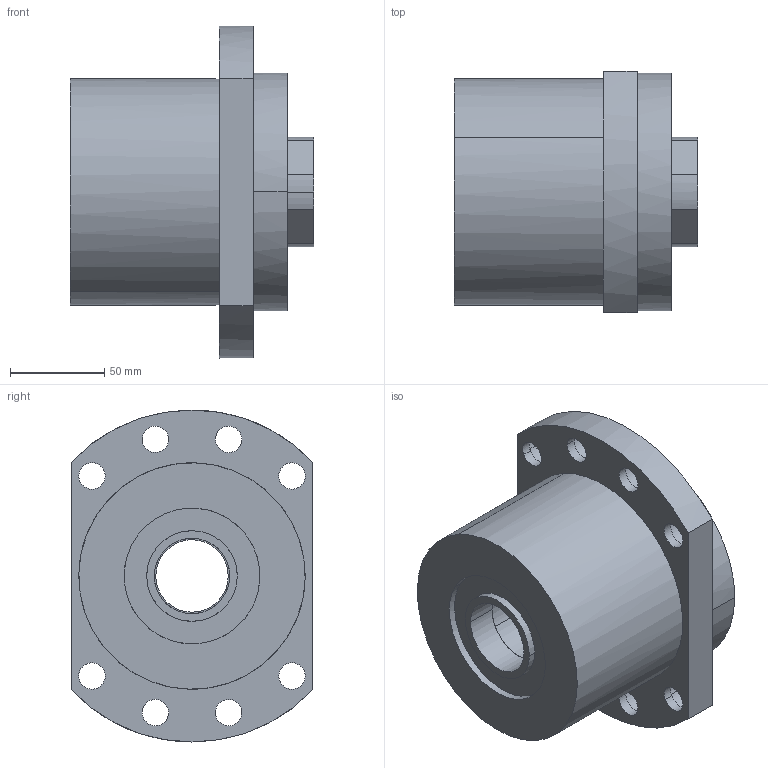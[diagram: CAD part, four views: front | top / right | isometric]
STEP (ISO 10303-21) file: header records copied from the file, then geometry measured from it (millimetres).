
FILE_DESCRIPTION(('CATIA V5 STEP Exchange'),'2;1');
FILE_NAME('D:\서포트 완성도면\FK\FK40DFF.stp','2014-03-26T10:17:47+00:00',('none'),('none'),'CATIA Version 5 Release 18 GA (IN-10)','CATIA V5 STEP AP203','none');
FILE_SCHEMA(('CONFIG_CONTROL_DESIGN'));
Length unit declared in the file: millimetre
Products named in the file (1): FK40DFF
Assembly tree (4 placements, depth 2):
  FK40DFF
    #56
    #3390  x2
    #3666
Bounding box: 129 x 128 x 176 mm (x, y, z)
Volume: 1283633.6 mm3; surface area: 128475.6 mm2
Topology: 4 solids, 4 shells, 92 faces, 212 edges, 142 vertices
Faces by surface type: cylinder 64, plane 28
Entity records: 4145 total; most frequent: CARTESIAN_POINT 2245, ORIENTED_EDGE 400, DIRECTION 271, EDGE_CURVE 200, VERTEX_POINT 134, EDGE_LOOP 122, AXIS2_PLACEMENT_3D 108, B_SPLINE_CURVE_WITH_KNOTS 95
